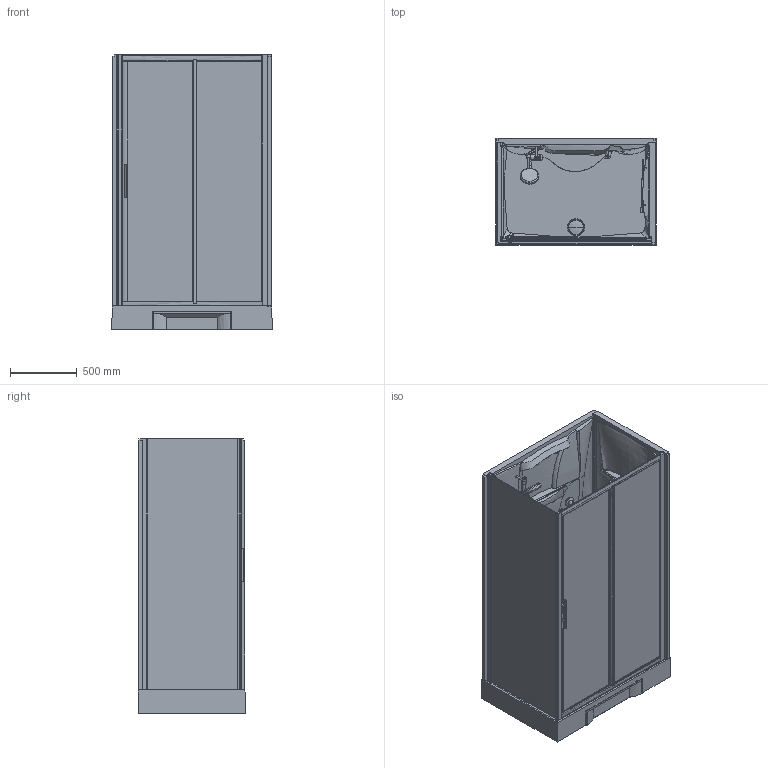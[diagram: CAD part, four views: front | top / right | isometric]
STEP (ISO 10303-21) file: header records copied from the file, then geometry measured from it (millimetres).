
FILE_DESCRIPTION(('STEP AP203'),'2;1');
FILE_NAME('NH 2P 120 M19.stp','2015-09-08T09:28:12',(''),(''),'2014.1.117','THINKDESIGN','');
FILE_SCHEMA(('CONFIG_CONTROL_DESIGN'));
Length unit declared in the file: millimetre
Products named in the file (1): top
Bounding box: 1204.04 x 808.53 x 2063.26 mm (x, y, z)
Volume: 251584052.4 mm3; surface area: 20709774.4 mm2
Topology: 35 solids, 35 shells, 727 faces, 1876 edges, 1223 vertices
Faces by surface type: bspline 381, plane 262, cylinder 84
Entity records: 72711 total; most frequent: CARTESIAN_POINT 58016, ORIENTED_EDGE 3554, DIRECTION 1938, EDGE_CURVE 1777, VERTEX_POINT 1151, VECTOR 770, LINE 770, EDGE_LOOP 732
